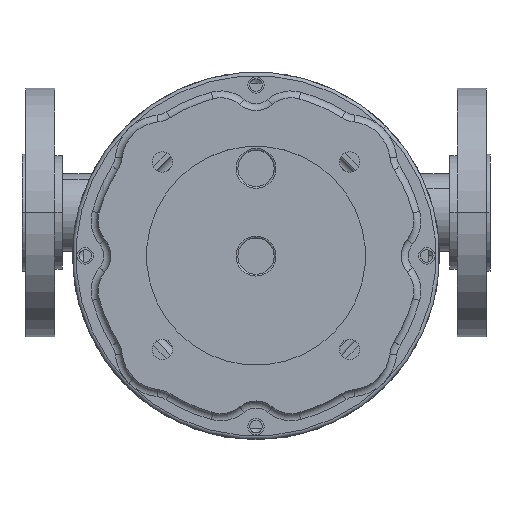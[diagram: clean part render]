
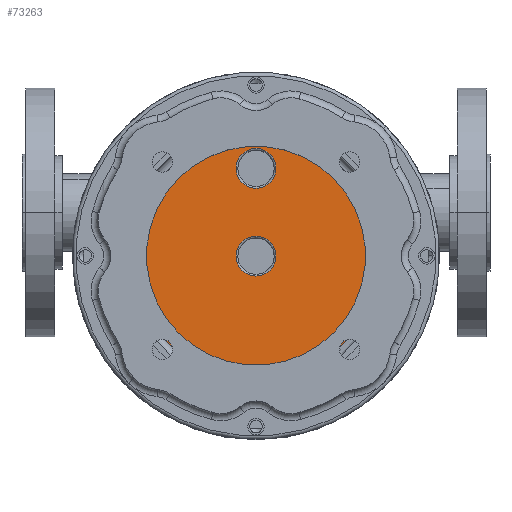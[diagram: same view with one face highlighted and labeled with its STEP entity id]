
A CAD part, top view. The second image highlights one B-rep face of the part: STEP entity #73263.
In plain terms, the highlighted planar face has unit normal (0, 0, 1).
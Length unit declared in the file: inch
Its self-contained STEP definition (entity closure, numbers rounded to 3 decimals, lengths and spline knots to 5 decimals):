
#2015 = FACE_BOUND ( 'NONE', #59940, .T. ) ;
#2848 = CARTESIAN_POINT ( 'NONE',  ( -6.3214, -1.79567, 2.82519 ) ) ;
#3712 = EDGE_CURVE ( 'NONE', #6479, #63471, #54193, .T. ) ;
#4444 = AXIS2_PLACEMENT_3D ( 'NONE', #21033, #66074, #73380 ) ;
#4977 = EDGE_LOOP ( 'NONE', ( #82787, #31261 ) ) ;
#6479 = VERTEX_POINT ( 'NONE', #70539 ) ;
#6767 = AXIS2_PLACEMENT_3D ( 'NONE', #67404, #42485, #80306 ) ;
#7160 = CARTESIAN_POINT ( 'NONE',  ( -4.2064, -1.79567, 2.82519 ) ) ;
#7870 = CARTESIAN_POINT ( 'NONE',  ( -6.3214, -3.91567, 2.82519 ) ) ;
#9254 = ORIENTED_EDGE ( 'NONE', *, *, #33063, .F. ) ;
#12318 = CARTESIAN_POINT ( 'NONE',  ( -6.3214, -1.79567, 2.82519 ) ) ;
#15423 = CARTESIAN_POINT ( 'NONE',  ( -6.66265, -1.79567, 2.82519 ) ) ;
#15442 = AXIS2_PLACEMENT_3D ( 'NONE', #45794, #71965, #39772 ) ;
#15580 = DIRECTION ( 'NONE',  ( 1., 0., 0. ) ) ;
#17513 = VERTEX_POINT ( 'NONE', #7160 ) ;
#20494 = FACE_OUTER_BOUND ( 'NONE', #67468, .T. ) ;
#20735 = CIRCLE ( 'NONE', #27519, 0.17865 ) ;
#21033 = CARTESIAN_POINT ( 'NONE',  ( -6.3214, -1.79567, 2.82519 ) ) ;
#21458 = VERTEX_POINT ( 'NONE', #71644 ) ;
#22524 = AXIS2_PLACEMENT_3D ( 'NONE', #12318, #38479, #44497 ) ;
#22559 = EDGE_CURVE ( 'NONE', #65216, #17513, #78449, .T. ) ;
#25322 = DIRECTION ( 'NONE',  ( 0., 0., 1. ) ) ;
#26566 = AXIS2_PLACEMENT_3D ( 'NONE', #76588, #36672, #75716 ) ;
#27309 = VERTEX_POINT ( 'NONE', #32282 ) ;
#27519 = AXIS2_PLACEMENT_3D ( 'NONE', #7870, #27994, #46474 ) ;
#27994 = DIRECTION ( 'NONE',  ( 0., 0., 1. ) ) ;
#28034 = CARTESIAN_POINT ( 'NONE',  ( -6.49961, -3.90315, 2.82519 ) ) ;
#29569 = ORIENTED_EDGE ( 'NONE', *, *, #69995, .T. ) ;
#30016 = CIRCLE ( 'NONE', #6767, 0.34125 ) ;
#31261 = ORIENTED_EDGE ( 'NONE', *, *, #55382, .T. ) ;
#32282 = CARTESIAN_POINT ( 'NONE',  ( -6.66265, -0.29567, 2.82519 ) ) ;
#33063 = EDGE_CURVE ( 'NONE', #65216, #63471, #20735, .T. ) ;
#35861 = DIRECTION ( 'NONE',  ( 0., 0., 1. ) ) ;
#36285 = AXIS2_PLACEMENT_3D ( 'NONE', #69548, #25322, #38607 ) ;
#36672 = DIRECTION ( 'NONE',  ( 0., 0., -1. ) ) ;
#38479 = DIRECTION ( 'NONE',  ( 0., 0., 1. ) ) ;
#38607 = DIRECTION ( 'NONE',  ( 1., 0., 0. ) ) ;
#39772 = DIRECTION ( 'NONE',  ( 1., 0., 0. ) ) ;
#41016 = EDGE_CURVE ( 'NONE', #17513, #6479, #69195, .T. ) ;
#41893 = DIRECTION ( 'NONE',  ( 1., 0., 0. ) ) ;
#42485 = DIRECTION ( 'NONE',  ( 0., 0., -1. ) ) ;
#44497 = DIRECTION ( 'NONE',  ( 1., 0., 0. ) ) ;
#45794 = CARTESIAN_POINT ( 'NONE',  ( -6.3214, -1.79567, 2.82519 ) ) ;
#46238 = CARTESIAN_POINT ( 'NONE',  ( -6.14318, -3.90315, 2.82519 ) ) ;
#46474 = DIRECTION ( 'NONE',  ( 1., 0., 0. ) ) ;
#47929 = VERTEX_POINT ( 'NONE', #77042 ) ;
#48049 = ORIENTED_EDGE ( 'NONE', *, *, #3712, .T. ) ;
#48316 = CIRCLE ( 'NONE', #15442, 0.34125 ) ;
#50997 = ORIENTED_EDGE ( 'NONE', *, *, #41016, .T. ) ;
#52246 = EDGE_CURVE ( 'NONE', #47929, #68725, #48316, .T. ) ;
#54111 = CIRCLE ( 'NONE', #76029, 0.34125 ) ;
#54193 = CIRCLE ( 'NONE', #22524, 2.115 ) ;
#55382 = EDGE_CURVE ( 'NONE', #68725, #47929, #77236, .T. ) ;
#55464 = DIRECTION ( 'NONE',  ( 0., 0., -1. ) ) ;
#59940 = EDGE_LOOP ( 'NONE', ( #29569, #70035 ) ) ;
#61507 = CARTESIAN_POINT ( 'NONE',  ( -6.3214, -0.29567, 2.82519 ) ) ;
#61652 = FACE_BOUND ( 'NONE', #4977, .T. ) ;
#63471 = VERTEX_POINT ( 'NONE', #28034 ) ;
#65216 = VERTEX_POINT ( 'NONE', #46238 ) ;
#66074 = DIRECTION ( 'NONE',  ( 0., 0., 1. ) ) ;
#67404 = CARTESIAN_POINT ( 'NONE',  ( -6.3214, -0.29567, 2.82519 ) ) ;
#67468 = EDGE_LOOP ( 'NONE', ( #9254, #83293, #50997, #48049 ) ) ;
#67659 = PLANE ( 'NONE',  #84604 ) ;
#68725 = VERTEX_POINT ( 'NONE', #15423 ) ;
#69195 = CIRCLE ( 'NONE', #36285, 2.115 ) ;
#69548 = CARTESIAN_POINT ( 'NONE',  ( -6.3214, -1.79567, 2.82519 ) ) ;
#69995 = EDGE_CURVE ( 'NONE', #21458, #27309, #54111, .T. ) ;
#70035 = ORIENTED_EDGE ( 'NONE', *, *, #83434, .T. ) ;
#70539 = CARTESIAN_POINT ( 'NONE',  ( -8.4364, -1.79567, 2.82519 ) ) ;
#71644 = CARTESIAN_POINT ( 'NONE',  ( -5.98015, -0.29567, 2.82519 ) ) ;
#71965 = DIRECTION ( 'NONE',  ( 0., 0., -1. ) ) ;
#73263 = ADVANCED_FACE ( 'NONE', ( #20494, #2015, #61652 ), #67659, .T. ) ;
#73380 = DIRECTION ( 'NONE',  ( 1., 0., 0. ) ) ;
#75716 = DIRECTION ( 'NONE',  ( 1., 0., 0. ) ) ;
#76029 = AXIS2_PLACEMENT_3D ( 'NONE', #61507, #55464, #15580 ) ;
#76588 = CARTESIAN_POINT ( 'NONE',  ( -6.3214, -1.79567, 2.82519 ) ) ;
#77042 = CARTESIAN_POINT ( 'NONE',  ( -5.98015, -1.79567, 2.82519 ) ) ;
#77236 = CIRCLE ( 'NONE', #26566, 0.34125 ) ;
#78449 = CIRCLE ( 'NONE', #4444, 2.115 ) ;
#80306 = DIRECTION ( 'NONE',  ( 1., 0., 0. ) ) ;
#82787 = ORIENTED_EDGE ( 'NONE', *, *, #52246, .T. ) ;
#83293 = ORIENTED_EDGE ( 'NONE', *, *, #22559, .T. ) ;
#83434 = EDGE_CURVE ( 'NONE', #27309, #21458, #30016, .T. ) ;
#84604 = AXIS2_PLACEMENT_3D ( 'NONE', #2848, #35861, #41893 ) ;
